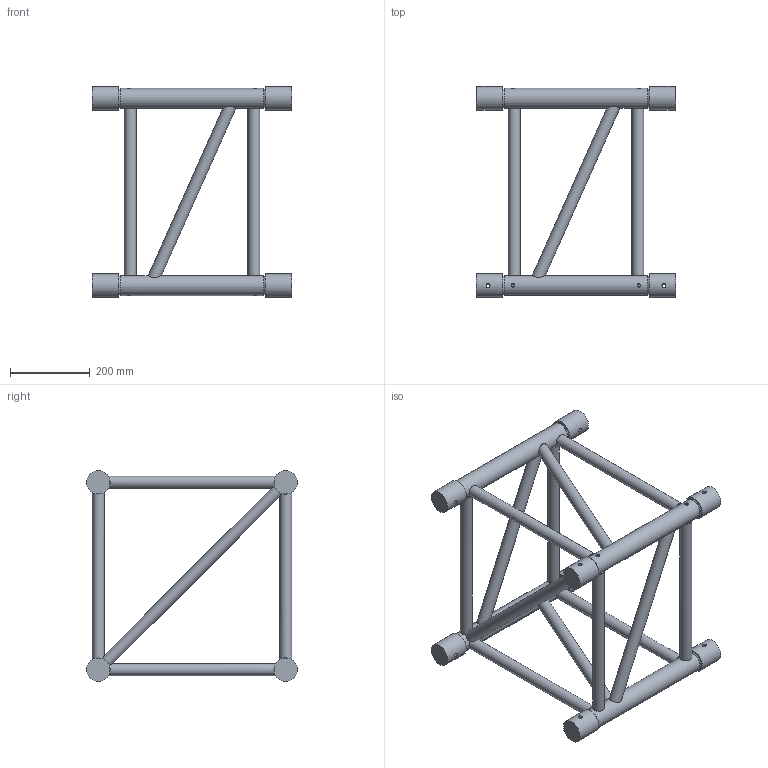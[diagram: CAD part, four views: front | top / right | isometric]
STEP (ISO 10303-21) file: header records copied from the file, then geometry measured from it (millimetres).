
FILE_DESCRIPTION(/* description */ (''),/* implementation_level */ '2;1');
FILE_NAME(/* name */ 'M:\Symbolen_NIEUW\STP\52-er truss\111110099.stp',/* time_stamp */ '2015-04-17T13:56:47+02:00',/* author */ ('Stephan'),/* organization */ (''),/* preprocessor_version */ 'ST-DEVELOPER v15.6',/* originating_system */ 'Autodesk Inventor 2015',/* authorisation */ '');
FILE_SCHEMA (('AUTOMOTIVE_DESIGN { 1 0 10303 214 3 1 1 }'));
Length unit declared in the file: millimetre
Products named in the file (1): 160024108
Bounding box: 500 x 528.8 x 528.8 mm (x, y, z)
Volume: 8827210.5 mm3; surface area: 986087.4 mm2
Topology: 1 solids, 1 shells, 222 faces, 533 edges, 325 vertices
Faces by surface type: plane 116, cylinder 66, cone 40
Full cylindrical faces by diameter (mm): 10 x8, 30 x14, 50 x4, 58.8 x8
Entity records: 8305 total; most frequent: CARTESIAN_POINT 2935, DIRECTION 1054, ORIENTED_EDGE 992, EDGE_CURVE 472, AXIS2_PLACEMENT_3D 463, EDGE_LOOP 328, VERTEX_POINT 320, STYLED_ITEM 223
